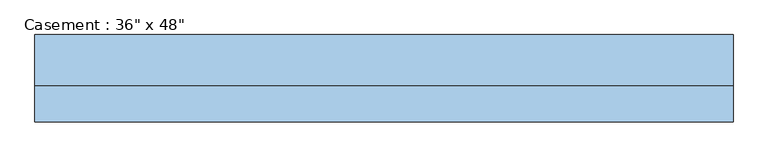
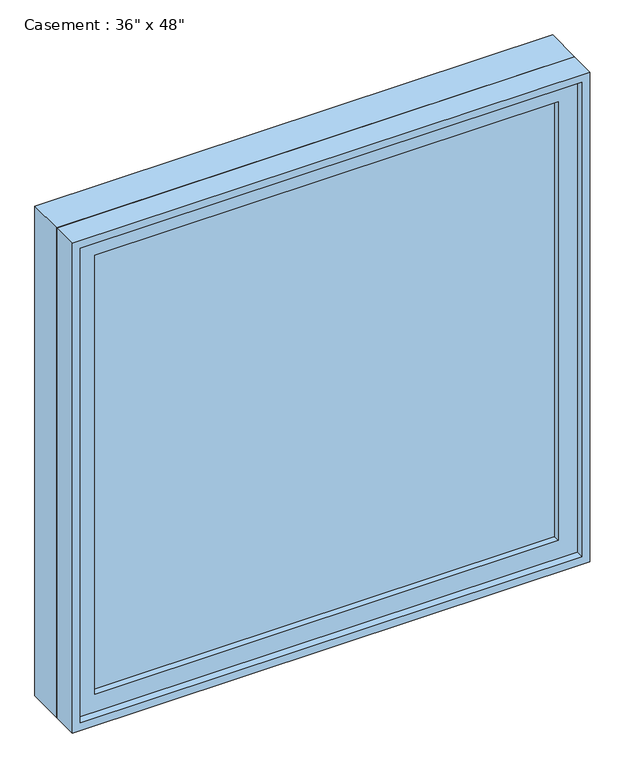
"""IFC4 building model written with IfcOpenShell, lengths in millimetres: window geometry."""

from ifc_helpers import new_model, si_unit, frame, origin, place, context, project, spatial, polyline, outline, extrude, source, transform, mapped, element, save


def window_c4c66847(model_context):
    return source(origin(), model_context, "Body", "SweptSolid", [
        extrude(outline(polyline([(546.1, -28.575), (546.1, -41.275), (-546.1, -41.275), (-546.1, -28.575), (546.1, -28.575)])), frame((0.0, 0.0, 977.9), z_axis=(0.0, 0.0, 1.0), x_axis=(1.0, 0.0, 0.0)), (0.0, 0.0, 1.0), 1092.2),
        extrude(outline(polyline([(2114.55, -590.55), (933.45, -590.55), (933.45, 590.55), (2114.55, 590.55), (2114.55, -590.55)]), holes=[polyline([(2070.1, -546.1), (2070.1, 546.1), (977.9, 546.1), (977.9, -546.1), (2070.1, -546.1)])]), frame((0.0, -57.15, 0.0), z_axis=(0.0, 1.0, 0.0), x_axis=(0.0, 0.0, 1.0)), (0.0, 0.0, 1.0), 44.45),
        extrude(outline(polyline([(2133.6, -609.6), (914.4, -609.6), (914.4, 609.6), (2133.6, 609.6), (2133.6, -609.6)]), holes=[polyline([(2101.85, -577.85), (2101.85, 577.85), (946.15, 577.85), (946.15, -577.85), (2101.85, -577.85)])]), frame((0.0, -12.7, 0.0), z_axis=(0.0, 1.0, 0.0), x_axis=(0.0, 0.0, 1.0)), (0.0, 0.0, 1.0), 88.9),
        extrude(outline(polyline([(2133.6, 609.6), (2133.6, -609.6), (914.4, -609.6), (914.4, 609.6), (2133.6, 609.6)]), holes=[polyline([(2114.55, 590.55), (933.45, 590.55), (933.45, -590.55), (2114.55, -590.55), (2114.55, 590.55)])]), frame((0.0, -76.2, 0.0), z_axis=(0.0, 1.0, 0.0), x_axis=(0.0, 0.0, 1.0)), (0.0, 0.0, 1.0), 63.5),
    ])


if __name__ == "__main__":
    model = new_model("IFC4")
    model_context = context("Model", 3, world=origin())
    ifc_project = project(units=[si_unit("LENGTHUNIT", "METRE", prefix="MILLI")], contexts=[model_context])
    site = spatial("IfcSite", under=ifc_project)
    building = spatial("IfcBuilding", under=site)
    placement = place(None, origin())
    window_shape = window_c4c66847(model_context)
    element("IfcWindow", 1, ObjectType="Casement : 36\" x 48\"", at=placement, inside=building, context=model_context, shape_type="MappedRepresentation", body=[
        mapped(window_shape, transform((0.0, 0.0, 0.0), x_axis=(1.0, 0.0, 0.0), y_axis=(0.0, 1.0, 0.0), z_axis=(0.0, 0.0, 1.0))),
    ])
    save(model, "model.ifc")
